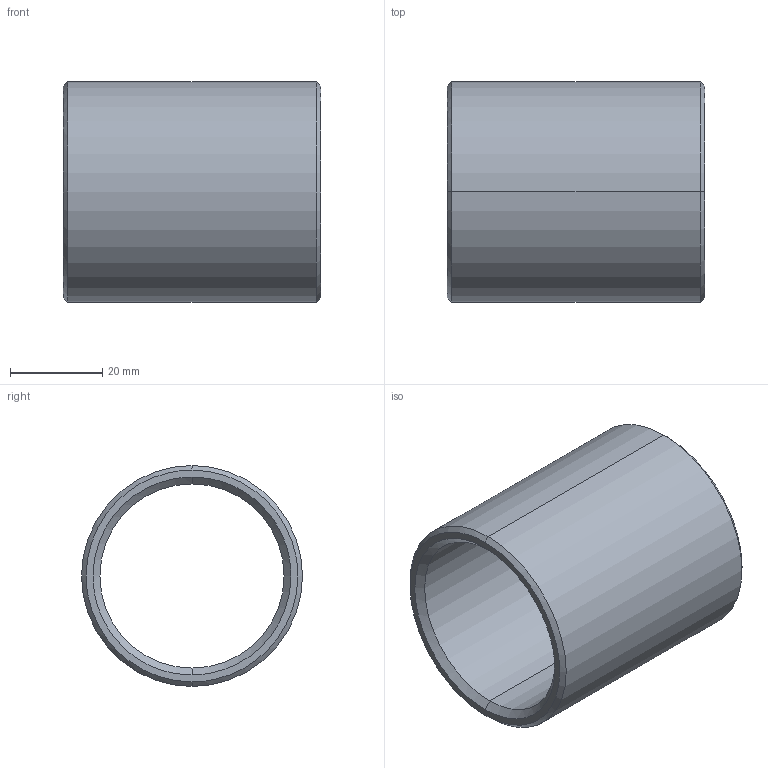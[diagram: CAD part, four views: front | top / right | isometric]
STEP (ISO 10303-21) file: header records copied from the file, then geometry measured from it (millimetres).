
FILE_DESCRIPTION(('CATIA V5 STEP Exchange'),'2;1');
FILE_NAME('C:\Users\Utente\Desktop\IO LAVORO\3D X SITO CF\X SITO\PLASTICA\352\352-40X56.stp','2021-04-14T14:55:06+00:00',('none'),('none'),'CATIA Version 5 Release 20 GA (IN-10)','CATIA V5 STEP AP203','none');
FILE_SCHEMA(('CONFIG_CONTROL_DESIGN'));
Length unit declared in the file: millimetre
Products named in the file (1): 352-40X56
Bounding box: 56 x 48 x 48 mm (x, y, z)
Volume: 30642.7 mm3; surface area: 16247.4 mm2
Topology: 1 solids, 1 shells, 14 faces, 44 edges, 32 vertices
Faces by surface type: cone 6, cylinder 4, plane 2, torus 2
Entity records: 634 total; most frequent: CARTESIAN_POINT 203, ORIENTED_EDGE 88, DIRECTION 64, EDGE_CURVE 44, AXIS2_PLACEMENT_3D 41, VERTEX_POINT 32, CIRCLE 26, EDGE_LOOP 16
